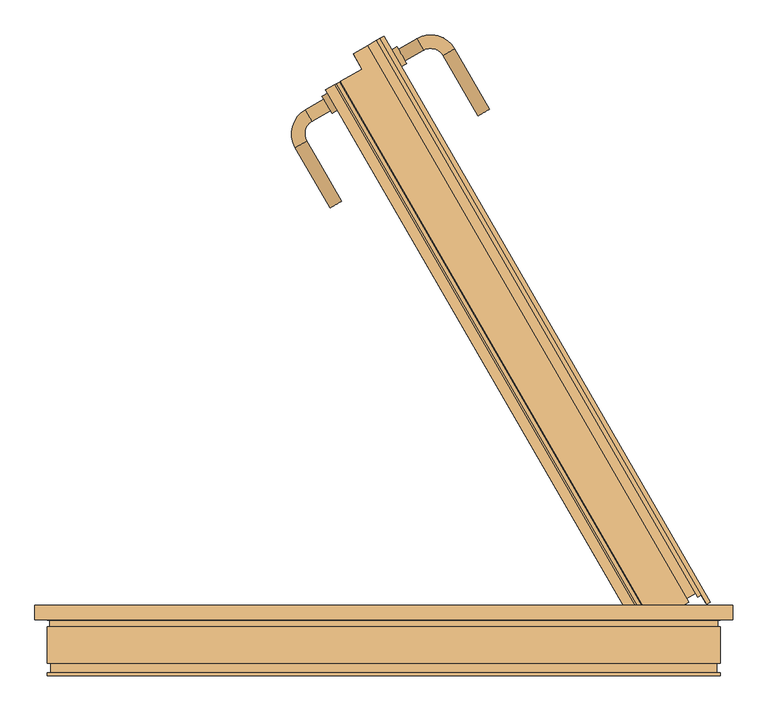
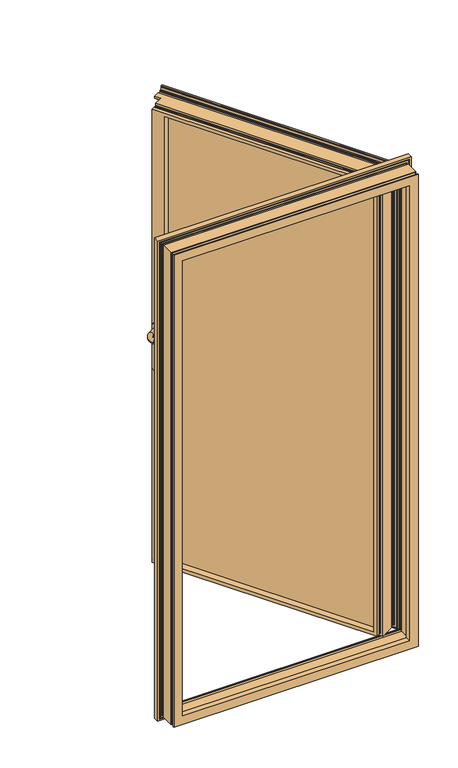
"""IFC4 building model written with IfcOpenShell, lengths in millimetres: door geometry, Comfort+_CUD-1_Metaglas : KozijnMerk."""

from ifc_helpers import new_model, si_unit, point, frame, frame_2d, origin, place, context, project, spatial, polyline, circle_curve, ellipse_curve, trimmed, segment, composite_curve, outline, extrude, faceted_brep, source, transform, mapped, element, save
from ifc_brep_helpers import plane_surface, cylinder_surface, revolved_surface, advanced_brep


def door_c66387b3(model_context):
    return source(origin(), model_context, "Body", "SolidModel", [
        extrude(outline(composite_curve([segment(polyline([(-142.592674, 0.0), (30.413355, 0.0)]), True, "CONTINUOUS"), segment(trimmed(circle_curve(frame_2d((30.413355, -14.0)), 14.0), [point((30.413355, 0.0))], [point((30.413355, -28.0))], False, "CARTESIAN"), True, "CONTINUOUS"), segment(polyline([(30.413355, -28.0), (-142.592674, -28.0)]), True, "CONTINUOUS"), segment(trimmed(circle_curve(frame_2d((-142.592674, -14.0)), 14.0), [point((-142.592674, -28.0))], [point((-142.592674, 0.0))], False, "CARTESIAN"), True, "CONTINUOUS")], self_intersect=False)), frame((-88.2255085, 778.6108966, 1706.9152867), z_axis=(0.866025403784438, 0.5000000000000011, 0.0), x_axis=(0.0, 0.0, -1.0)), (0.0, 0.0, 1.0), 9.0),
        advanced_brep(
        [(-85.9755085, 774.7137823, 1836.0), (-76.4755085, 758.2592996, 1836.0), (-112.3892834, 759.4637823, 1836.0), (-102.8892834, 743.0092996, 1836.0), (-110.3928041, 715.0057789, 1836.0), (-126.8472868, 705.5057789, 1836.0), (-76.8472868, 618.9032385, 1836.0), (-60.3928041, 628.4032385, 1836.0)],
        [
            (0, 1, circle_curve(frame((-81.2255085, 766.486541, 1836.0), z_axis=(0.866025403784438, 0.5000000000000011, 0.0), x_axis=(0.5000000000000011, -0.866025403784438, 0.0)), 9.5)),
            (1, 0, circle_curve(frame((-81.2255085, 766.486541, 1836.0), z_axis=(0.866025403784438, 0.5000000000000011, 0.0), x_axis=(0.5000000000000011, -0.866025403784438, 0.0)), 9.5)),
            (0, 2),
            (2, 3, circle_curve(frame((-107.6392834, 751.236541, 1836.0), z_axis=(0.866025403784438, 0.5000000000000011, 0.0), x_axis=(0.5000000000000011, -0.866025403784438, 0.0)), 9.5)),
            (3, 1),
            (3, 2, circle_curve(frame((-107.6392834, 751.236541, 1836.0), z_axis=(0.866025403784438, 0.5000000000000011, 0.0), x_axis=(0.5000000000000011, -0.866025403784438, 0.0)), 9.5)),
            (4, 3, circle_curve(frame((-92.6392834, 725.2557789, 1836.0), z_axis=(0.0, 0.0, -1.0), x_axis=(-0.5000000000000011, 0.866025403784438, 0.0)), 20.5)),
            (2, 5, circle_curve(frame((-92.6392834, 725.2557789, 1836.0), z_axis=(0.0, 0.0, 1.0), x_axis=(-0.5000000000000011, 0.866025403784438, 0.0)), 39.5)),
            (5, 4, circle_curve(frame((-118.6200455, 710.2557789, 1836.0), z_axis=(-0.4999999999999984, 0.8660254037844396, 0.0), x_axis=(0.8660254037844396, 0.4999999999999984, 0.0)), 9.5)),
            (4, 5, circle_curve(frame((-118.6200455, 710.2557789, 1836.0), z_axis=(-0.49999999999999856, 0.8660254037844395, 0.0), x_axis=(0.8660254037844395, 0.49999999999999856, 0.0)), 9.5)),
            (6, 7, circle_curve(frame((-68.6200455, 623.6532385, 1836.0), z_axis=(0.4999999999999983, -0.8660254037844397, 0.0), x_axis=(0.8660254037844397, 0.4999999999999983, 0.0)), 9.5)),
            (7, 6, circle_curve(frame((-68.6200455, 623.6532385, 1836.0), z_axis=(0.4999999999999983, -0.8660254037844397, 0.0), x_axis=(0.8660254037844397, 0.4999999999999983, 0.0)), 9.5)),
            (5, 6),
            (7, 4),
        ],
        [
            plane_surface(frame((-81.2255085, 766.486541, 1836.0), z_axis=(0.866025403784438, 0.5000000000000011, 0.0), x_axis=(0.0, 0.0, 1.0))),
            cylinder_surface(frame((-81.2255085, 766.486541, 1836.0), z_axis=(0.866025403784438, 0.5000000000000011, 0.0), x_axis=(0.5000000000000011, -0.866025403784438, 0.0)), 9.5),
            revolved_surface(trimmed(ellipse_curve(frame((-107.6392834, 751.236541, 1836.0), z_axis=(0.866025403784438, 0.5000000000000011, 0.0), x_axis=(0.5000000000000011, -0.866025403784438, 0.0)), 9.5, 9.5), [point((-112.3892834, 759.4637823, 1836.0))], [point((-102.8892834, 743.0092996, 1836.0))], True, "CARTESIAN"), (-92.6392834, 725.2557789, 1836.0), (0.0, 0.0, 1.0)),
            revolved_surface(trimmed(ellipse_curve(frame((-107.6392834, 751.236541, 1836.0), z_axis=(0.866025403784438, 0.5000000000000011, 0.0), x_axis=(0.5000000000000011, -0.866025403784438, 0.0)), 9.5, 9.5), [point((-102.8892834, 743.0092996, 1836.0))], [point((-112.3892834, 759.4637823, 1836.0))], True, "CARTESIAN"), (-92.6392834, 725.2557789, 1836.0), (0.0, 0.0, 1.0)),
            plane_surface(frame((-68.6200455, 623.6532385, 1836.0), z_axis=(0.4999999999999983, -0.8660254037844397, 0.0), x_axis=(0.0, 0.0, 1.0))),
            cylinder_surface(frame((-118.6200455, 710.2557789, 1836.0), z_axis=(-0.4999999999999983, 0.8660254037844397, 0.0), x_axis=(0.8660254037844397, 0.4999999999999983, 0.0)), 9.5),
        ],
        [
            (0, [[1, 2]]),
            (1, [[-1, 3, 4, 5]]),
            (1, [[-2, -5, 6, -3]]),
            (2, [[7, -4, 8, 9]]),
            (3, [[-8, -6, -7, 10]]),
            (4, [[11, 12]]),
            (5, [[-9, 13, -12, 14]]),
            (5, [[-10, -14, -11, -13]]),
        ],
    ),
        extrude(outline(composite_curve([segment(polyline([(142.592674, 0.0), (-30.413355, 0.0)]), True, "CONTINUOUS"), segment(trimmed(circle_curve(frame_2d((-30.413355, 14.0)), 14.0), [point((-30.413355, 0.0))], [point((-30.413355, 28.0))], False, "CARTESIAN"), True, "CONTINUOUS"), segment(polyline([(-30.413355, 28.0), (142.592674, 28.0)]), True, "CONTINUOUS"), segment(trimmed(circle_curve(frame_2d((142.592674, 14.0)), 14.0), [point((142.592674, 28.0))], [point((142.592674, 0.0))], False, "CARTESIAN"), True, "CONTINUOUS")], self_intersect=False)), frame((11.0, 845.5472247, 1706.9152867), z_axis=(0.866025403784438, 0.5000000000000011, 0.0), x_axis=(0.0, 0.0, 1.0)), (0.0, 0.0, 1.0), 9.0),
        advanced_brep(
        [(21.0442286, 846.1501104, 1836.0), (30.5442286, 829.6956277, 1836.0), (56.9580034, 844.9456277, 1836.0), (47.4580034, 861.4001104, 1836.0), (84.9615242, 837.4421069, 1836.0), (101.4160069, 846.9421069, 1836.0), (151.4160069, 760.3395665, 1836.0), (134.9615242, 750.8395665, 1836.0)],
        [
            (0, 1, circle_curve(frame((25.7942286, 837.922869, 1836.0), z_axis=(-0.866025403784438, -0.5000000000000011, 0.0), x_axis=(0.5000000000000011, -0.866025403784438, 0.0)), 9.5)),
            (1, 0, circle_curve(frame((25.7942286, 837.922869, 1836.0), z_axis=(-0.866025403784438, -0.5000000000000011, 0.0), x_axis=(0.5000000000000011, -0.866025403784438, 0.0)), 9.5)),
            (1, 2),
            (2, 3, circle_curve(frame((52.2080034, 853.172869, 1836.0), z_axis=(-0.866025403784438, -0.5000000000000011, 0.0), x_axis=(0.5000000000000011, -0.866025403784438, 0.0)), 9.5)),
            (3, 0),
            (3, 2, circle_curve(frame((52.2080034, 853.172869, 1836.0), z_axis=(-0.866025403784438, -0.5000000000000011, 0.0), x_axis=(0.5000000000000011, -0.866025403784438, 0.0)), 9.5)),
            (4, 5, circle_curve(frame((93.1887656, 842.1921069, 1836.0), z_axis=(-0.5000000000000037, 0.8660254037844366, 0.0), x_axis=(-0.8660254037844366, -0.5000000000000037, 0.0)), 9.5)),
            (5, 3, circle_curve(frame((67.2080034, 827.1921069, 1836.0), z_axis=(0.0, 0.0, 1.0), x_axis=(-0.5000000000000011, 0.866025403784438, 0.0)), 39.5)),
            (2, 4, circle_curve(frame((67.2080034, 827.1921069, 1836.0), z_axis=(0.0, 0.0, -1.0), x_axis=(-0.5000000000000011, 0.866025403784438, 0.0)), 20.5)),
            (5, 4, circle_curve(frame((93.1887656, 842.1921069, 1836.0), z_axis=(-0.5000000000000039, 0.8660254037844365, 0.0), x_axis=(-0.8660254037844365, -0.5000000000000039, 0.0)), 9.5)),
            (6, 7, circle_curve(frame((143.1887656, 755.5895665, 1836.0), z_axis=(0.5000000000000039, -0.8660254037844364, 0.0), x_axis=(-0.8660254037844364, -0.5000000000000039, 0.0)), 9.5)),
            (7, 6, circle_curve(frame((143.1887656, 755.5895665, 1836.0), z_axis=(0.5000000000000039, -0.8660254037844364, 0.0), x_axis=(-0.8660254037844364, -0.5000000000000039, 0.0)), 9.5)),
            (4, 7),
            (6, 5),
        ],
        [
            plane_surface(frame((25.7942286, 837.922869, 1836.0), z_axis=(-0.866025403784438, -0.5000000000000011, 0.0), x_axis=(0.0, 0.0, 1.0))),
            cylinder_surface(frame((25.7942286, 837.922869, 1836.0), z_axis=(-0.866025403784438, -0.5000000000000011, 0.0), x_axis=(0.5000000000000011, -0.866025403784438, 0.0)), 9.5),
            revolved_surface(trimmed(ellipse_curve(frame((52.2080034, 853.172869, 1836.0), z_axis=(0.866025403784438, 0.5000000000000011, 0.0), x_axis=(0.5000000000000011, -0.866025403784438, 0.0)), 9.5, 9.5), [point((47.4580034, 861.4001104, 1836.0))], [point((56.9580034, 844.9456277, 1836.0))], True, "CARTESIAN"), (67.2080034, 827.1921069, 1836.0), (0.0, 0.0, 1.0)),
            revolved_surface(trimmed(ellipse_curve(frame((52.2080034, 853.172869, 1836.0), z_axis=(0.866025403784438, 0.5000000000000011, 0.0), x_axis=(0.5000000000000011, -0.866025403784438, 0.0)), 9.5, 9.5), [point((56.9580034, 844.9456277, 1836.0))], [point((47.4580034, 861.4001104, 1836.0))], True, "CARTESIAN"), (67.2080034, 827.1921069, 1836.0), (0.0, 0.0, 1.0)),
            plane_surface(frame((143.1887656, 755.5895665, 1836.0), z_axis=(0.5000000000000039, -0.8660254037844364, 0.0), x_axis=(0.0, 0.0, 1.0))),
            cylinder_surface(frame((93.1887656, 842.1921069, 1836.0), z_axis=(-0.5000000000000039, 0.8660254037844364, 0.0), x_axis=(-0.8660254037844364, -0.5000000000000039, 0.0)), 9.5),
        ],
        [
            (0, [[1, 2]]),
            (1, [[3, 4, 5, -2]]),
            (1, [[-5, 6, -3, -1]]),
            (2, [[7, 8, -4, 9]]),
            (3, [[10, -9, -6, -8]]),
            (4, [[11, 12]]),
            (5, [[13, -11, 14, -7]]),
            (5, [[-14, -12, -13, -10]]),
        ],
    ),
        extrude(outline(polyline([(1.8051363, 793.4731958), (423.8051363, 62.547755), (418.6089838, 59.547755), (-3.3910162, 790.4731958), (1.8051363, 793.4731958)])), frame((0.0, 0.0, 858.0), z_axis=(0.0, 0.0, 1.0), x_axis=(1.0, 0.0, 0.0)), (0.0, 0.0, 1.0), 1884.0),
        extrude(outline(polyline([(-16.3813972, 782.9731958), (405.6186028, 52.047755), (401.7214885, 49.797755), (-20.2785115, 780.7231958), (-16.3813972, 782.9731958)])), frame((0.0, 0.0, 858.0), z_axis=(0.0, 0.0, 1.0), x_axis=(1.0, 0.0, 0.0)), (0.0, 0.0, 1.0), 1884.0),
        extrude(outline(polyline([(-33.2688926, 773.2231958), (388.7311074, 42.297755), (383.534955, 39.297755), (-38.465045, 770.2231958), (-33.2688926, 773.2231958)])), frame((0.0, 0.0, 858.0), z_axis=(0.0, 0.0, 1.0), x_axis=(1.0, 0.0, 0.0)), (0.0, 0.0, 1.0), 1884.0),
        extrude(outline(polyline([(844.0, -1884.0), (0.0, -1884.0), (0.0, 0.0), (844.0, 0.0), (844.0, -1884.0)]), holes=[polyline([(832.0, -12.0), (12.0, -12.0), (12.0, -1872.0), (832.0, -1872.0), (832.0, -12.0)])]), frame((405.6186028, 52.047755, 2742.0), z_axis=(0.8660254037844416, 0.49999999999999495, 0.0), x_axis=(-0.49999999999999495, 0.8660254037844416, 0.0)), (0.0, 0.0, 1.0), 15.0),
        extrude(outline(polyline([(844.0, -1884.0), (0.0, -1884.0), (0.0, 0.0), (844.0, 0.0), (844.0, -1884.0)]), holes=[polyline([(832.0, -12.0), (12.0, -12.0), (12.0, -1872.0), (832.0, -1872.0), (832.0, -12.0)])]), frame((388.7311074, 42.297755, 2742.0), z_axis=(0.8660254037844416, 0.49999999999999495, 0.0), x_axis=(-0.49999999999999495, 0.8660254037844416, 0.0)), (0.0, 0.0, 1.0), 15.0),
        faceted_brep([(-27.7128081, 848.5997864, 2727.9999691), (-27.7128081, 848.5997864, 2744.0999691), (-43.6476588, 839.399796, 2744.0999691), (-43.6476588, 839.399796, 2752.5013297), (-23.3393798, 851.1247864, 2752.5013297), (-23.3393798, 851.1247864, 2751.0), (-25.5044433, 849.8747864, 2751.0), (-25.5044433, 849.8747864, 2747.993792), (-23.3393798, 851.1247864, 2747.993792), (-23.3393798, 851.1247864, 2746.50005), (-10.3498012, 858.6243231, 2746.50005), (-10.3498012, 858.6243231, 2748.00002), (-8.1841894, 859.8746396, 2748.00002), (-8.1841894, 859.8746396, 2751.0), (-10.3498012, 858.6243231, 2751.0), (-10.3498012, 858.6243231, 2752.5013297), (-5.1961476, 861.5997864, 2752.5013297), (-5.1961476, 861.5997864, 2762.0431852), (-2.2917701, 863.2766295, 2762.0431852), (-2.2917701, 863.2766295, 2765.9068148), (-5.1961476, 861.5997864, 2765.9068148), (-5.1961476, 861.5997864, 2768.0), (0.0, 864.5997836, 2768.0), (0.0, 864.5997836, 832.0), (-5.1961476, 861.5997864, 832.0), (-5.1961476, 861.5997864, 834.0931852), (-2.2917701, 863.2766295, 834.0931852), (-2.2917701, 863.2766295, 837.9568148), (-5.1961476, 861.5997864, 837.9568148), (-5.1961476, 861.5997864, 847.4986703), (-10.3498012, 858.6243231, 847.4986703), (-10.3498012, 858.6243231, 849.0), (-8.1841894, 859.8746396, 849.0), (-8.1841894, 859.8746396, 851.99998), (-10.3498012, 858.6243231, 851.99998), (-10.3498012, 858.6243231, 853.49995), (-23.3393798, 851.1247864, 853.49995), (-23.3393798, 851.1247864, 852.006208), (-25.5044433, 849.8747864, 852.006208), (-25.5044433, 849.8747864, 849.0), (-23.3393798, 851.1247864, 849.0), (-23.3393798, 851.1247864, 847.4986703), (-43.6476588, 839.399796, 847.4986703), (-43.6476588, 839.399796, 855.9000309), (-27.7128081, 848.5997864, 855.9000309), (-27.7128081, 848.5997864, 872.0000309), (-5.1961476, 861.5997864, 872.0000309), (-5.1961476, 861.5997864, 2727.9999691), (468.0, 54.0000056, 2768.0), (468.0, 54.0000056, 832.0), (447.9999845, 88.6410485, 872.0000309), (447.9999845, 88.6410485, 2727.9999691), (36.5, 801.3799291, 2727.9999691), (36.5, 801.3799291, 872.0000309), (462.8038524, 51.0000084, 832.0), (461.7572599, 52.81276, 2765.9068148), (461.7572599, 52.81276, 834.0931852), (462.8038524, 51.0000084, 2768.0), (464.6616374, 54.4896031, 834.0931852), (462.7298225, 57.8356045, 2762.0431852), (462.7298225, 57.8356045, 837.9568148), (464.6616374, 54.4896031, 2765.9068148), (459.825445, 56.1587614, 837.9568148), (455.0545173, 64.4222506, 2752.5013297), (455.0545173, 64.4222506, 847.4986703), (459.825445, 56.1587614, 2762.0431852), (449.9008637, 61.4467873, 847.4986703), (449.1501988, 62.746977, 2751.0), (449.1501988, 62.746977, 849.0), (449.9008637, 61.4467873, 2752.5013297), (451.3158106, 63.9972935, 849.0), (449.8158206, 66.5953524, 2748.00002), (449.8158206, 66.5953524, 851.99998), (451.3158106, 63.9972935, 2751.0), (447.6502088, 65.3450359, 851.99998), (446.9002238, 66.644048, 2746.50005), (446.9002238, 66.644048, 853.49995), (447.6502088, 65.3450359, 2748.00002), (433.9106452, 59.1445113, 853.49995), (434.6575163, 57.8508928, 2747.993792), (434.6575163, 57.8508928, 852.006208), (433.9106452, 59.1445113, 2746.50005), (432.4924527, 56.6008928, 852.006208), (433.9955567, 53.9974403, 2751.0), (433.9955567, 53.9974403, 849.0), (432.4924527, 56.6008928, 2747.993792), (436.1606202, 55.2474403, 849.0), (436.9112851, 53.9472506, 2752.5013297), (436.9112851, 53.9472506, 847.4986703), (436.1606202, 55.2474403, 2751.0), (385.8591042, 24.4722603, 847.4986703), (-61.8915606, 799.9991609, 847.4986703), (-31.1476588, 817.7491609, 847.4986703), (381.8347955, 31.4425674, 2744.4527122), (381.8347955, 31.4425674, 855.5472878), (-61.8915606, 799.9991609, 855.5472878), (385.8591042, 24.4722603, 2752.5013297), (-61.8915606, 799.9991609, 2752.5013297), (-61.8915606, 799.9991609, 2744.4527122), (379.0306335, 32.1939404, 857.6000768), (-63.6693281, 798.9727664, 857.6000768), (374.7245725, 29.7078349, 857.6000768), (-67.9753891, 796.4866609, 857.6000768), (373.5495725, 31.7429946, 2740.0499232), (373.5495725, 31.7429946, 859.9500768), (-67.9753891, 796.4866609, 859.9500768), (374.7245725, 29.7078349, 2742.3999232), (-67.9753891, 796.4866609, 2742.3999232), (-67.9753891, 796.4866609, 2740.0499232), (370.9947976, 30.2679946, 859.9500768), (-70.530164, 795.0116609, 859.9500768), (372.1697976, 28.2328349, 2742.3999232), (372.1697976, 28.2328349, 857.6000768), (-70.530164, 795.0116609, 857.6000768), (370.9947976, 30.2679946, 2740.0499232), (-70.530164, 795.0116609, 2740.0499232), (-70.530164, 795.0116609, 2742.3999232), (359.5907786, 20.9703349, 857.6000768), (-83.109183, 787.7491609, 857.6000768), (359.5907786, 20.9703349, 2742.3999232), (-83.109183, 787.7491609, 2742.3999232), (-83.109183, 787.7491609, 2727.9999691), (-82.883374, 787.3580482, 2727.9999691), (-82.883374, 787.3580482, 872.0000309), (-83.109183, 787.7491609, 872.0000309), (352.3908015, 33.441061, 2727.9999691), (352.3908015, 33.441061, 872.0000309), (-59.109183, 746.1799415, 872.0000309), (-59.109183, 746.1799415, 2727.9999691), (-67.7495801, 796.0955482, 872.0000309), (-63.4434769, 798.581678, 872.0000309), (-63.2781732, 799.1985998, 872.0000309), (-70.304355, 794.6205482, 872.0000309), (-69.129355, 792.5853885, 872.0000309), (-66.5745801, 794.0603885, 872.0000309), (-37.8350806, 761.3321153, 872.0000309), (-39.7703029, 764.6840186, 872.0000309), (-42.5505249, 763.0788566, 872.0000309), (-40.6153027, 759.7269534, 872.0000309), (374.907462, 46.441061, 872.0000309), (-36.5925225, 759.1799415, 872.0000309), (376.1023509, 44.3714527, 2730.3897468), (376.1023509, 44.3714527, 869.6102532), (-60.5925225, 800.7491609, 869.6102532), (-60.5925225, 800.7491609, 872.0000309), (-44.9917311, 773.7277975, 872.0000309), (-44.9917311, 773.7277975, 2727.9999691), (-60.5925225, 800.7491609, 2727.9999691), (-60.5925225, 800.7491609, 2730.3897468), (374.907462, 46.441061, 2727.9999691), (-36.5925225, 759.1799415, 2727.9999691), (-37.8350806, 761.3321153, 2727.9999691), (-39.7703029, 764.6840186, 2727.9999691), (373.3221288, 42.7662908, 869.6102532), (-63.3727446, 799.143999, 869.6102532), (375.2573511, 39.4143875, 2734.2601913), (375.2573511, 39.4143875, 865.7398087), (-63.3727446, 799.143999, 865.7398087), (373.3221288, 42.7662908, 2730.3897468), (-63.3727446, 799.143999, 2730.3897468), (-63.3727446, 799.143999, 2734.2601913), (378.0375731, 41.0195495, 865.7398087), (-60.5925225, 800.7491609, 865.7398087), (381.5942053, 34.8592819, 2741.3734556), (381.5942053, 34.8592819, 858.6265444), (-60.5925225, 800.7491609, 858.6265444), (378.0375731, 41.0195495, 2734.2601913), (-60.5925225, 800.7491609, 2734.2601913), (-60.5925225, 800.7491609, 2741.3734556), (383.8283795, 33.0008764, 855.9000309), (-59.7216051, 801.2519853, 855.9000309), (428.3371765, 58.6980424, 855.9000309), (-31.1476588, 817.7491609, 855.9000309), (-20.0376779, 835.306071, 2727.9999691), (0.3879834, 799.9277878, 2727.9999691), (0.3879834, 799.9277878, 872.0000309), (-20.0376779, 835.306071, 872.0000309), (428.3371765, 58.6980424, 2744.0999691), (420.2871765, 72.6410514, 2727.9999691), (420.2871765, 72.6410514, 872.0000309), (8.7871919, 785.3799319, 872.0000309), (8.7871919, 785.3799319, 2727.9999691), (-15.6642496, 837.831071, 872.0000309), (-14.9135848, 836.5308814, 872.0000309), (-17.0786483, 835.2808814, 872.0000309), (-15.5755443, 832.6774289, 872.0000309), (-13.4104808, 833.9274289, 872.0000309), (-12.6636098, 832.6338104, 872.0000309), (0.3259688, 840.1333471, 872.0000309), (-0.4240162, 841.4323592, 872.0000309), (1.7415955, 842.6826757, 872.0000309), (0.2416055, 845.2807346, 872.0000309), (-1.9240062, 844.0304181, 872.0000309), (-2.674671, 845.3306077, 872.0000309), (2.4789826, 848.306071, 872.0000309), (-2.2919452, 856.5695603, 872.0000309), (0.6124323, 858.2464034, 872.0000309), (-1.3193825, 861.5924049, 872.0000309), (-4.22376, 859.9155617, 872.0000309), (-4.22376, 859.9155617, 2727.9999691), (-31.1476588, 817.7491609, 872.0000309), (-35.9725287, 826.1060807, 872.0000309), (383.8283795, 33.0008764, 2744.0999691), (-42.5505249, 763.0788566, 2727.9999691), (-40.6153027, 759.7269534, 2727.9999691), (-70.304355, 794.6205482, 2727.9999691), (379.0306335, 32.1939404, 2742.3999232), (-15.6642496, 837.831071, 2727.9999691), (-35.9725287, 826.1060807, 2727.9999691), (-14.9135848, 836.5308814, 2727.9999691), (-17.0786483, 835.2808814, 2727.9999691), (-15.5755443, 832.6774289, 2727.9999691), (-13.4104808, 833.9274289, 2727.9999691), (-12.6636098, 832.6338104, 2727.9999691), (0.3259688, 840.1333471, 2727.9999691), (-0.4240162, 841.4323592, 2727.9999691), (1.7415955, 842.6826757, 2727.9999691), (0.2416055, 845.2807346, 2727.9999691), (-1.9240062, 844.0304181, 2727.9999691), (-2.674671, 845.3306077, 2727.9999691), (2.4789826, 848.306071, 2727.9999691), (-2.2919452, 856.5695603, 2727.9999691), (0.6124323, 858.2464034, 2727.9999691), (-1.3193825, 861.5924049, 2727.9999691), (-69.129355, 792.5853885, 2727.9999691), (-66.5745801, 794.0603885, 2727.9999691), (-67.7495801, 796.0955482, 2727.9999691), (-63.4434769, 798.581678, 2727.9999691), (-63.2781732, 799.1985998, 2727.9999691), (-59.7216051, 801.2519853, 2744.0999691), (-31.1476588, 817.7491609, 2744.0999691), (-63.6693281, 798.9727664, 2742.3999232), (-31.1476588, 817.7491609, 2752.5013297), (-31.1476588, 817.7491609, 2727.9999691)], [[[0, 1, 2, 3, 4, 5, 6, 7, 8, 9, 10, 11, 12, 13, 14, 15, 16, 17, 18, 19, 20, 21, 22, 23, 24, 25, 26, 27, 28, 29, 30, 31, 32, 33, 34, 35, 36, 37, 38, 39, 40, 41, 42, 43, 44, 45, 46, 47]], [[22, 48, 49, 23], [50, 51, 52, 53]], [[54, 24, 23, 49]], [[21, 20, 55, 56, 25, 24, 54, 57]], [[58, 26, 25, 56]], [[19, 18, 59, 60, 27, 26, 58, 61]], [[62, 28, 27, 60]], [[17, 16, 63, 64, 29, 28, 62, 65]], [[66, 30, 29, 64]], [[15, 14, 67, 68, 31, 30, 66, 69]], [[70, 32, 31, 68]], [[13, 12, 71, 72, 33, 32, 70, 73]], [[74, 34, 33, 72]], [[11, 10, 75, 76, 35, 34, 74, 77]], [[78, 36, 35, 76]], [[9, 8, 79, 80, 37, 36, 78, 81]], [[82, 38, 37, 80]], [[7, 6, 83, 84, 39, 38, 82, 85]], [[86, 40, 39, 84]], [[5, 4, 87, 88, 41, 40, 86, 89]], [[41, 88, 90, 91, 92, 42]], [[93, 94, 95, 91, 90, 96, 97, 98]], [[94, 99, 100, 95]], [[99, 101, 102, 100]], [[103, 104, 105, 102, 101, 106, 107, 108]], [[104, 109, 110, 105]], [[111, 112, 113, 110, 109, 114, 115, 116]], [[112, 117, 118, 113]], [[117, 119, 120, 121, 122, 123, 124, 118], [125, 126, 127, 128]], [[129, 130, 131, 124, 123, 132, 133, 134]], [[135, 136, 137, 138]], [[126, 139, 140, 127]], [[141, 142, 143, 144, 145, 146, 147, 148], [139, 149, 150, 140], [135, 151, 152, 136]], [[142, 153, 154, 143]], [[155, 156, 157, 154, 153, 158, 159, 160]], [[156, 161, 162, 157]], [[163, 164, 165, 162, 161, 166, 167, 168]], [[164, 169, 170, 165]], [[171, 44, 43, 172, 170, 169]], [[1, 0, 173, 174, 175, 176, 45, 44, 171, 177], [178, 179, 180, 181]], [[45, 176, 182, 183, 184, 185, 186, 187, 188, 189, 190, 191, 192, 193, 194, 195, 196, 197, 198, 46]], [[179, 50, 53, 180]], [[47, 46, 198, 199]], [[174, 146, 145, 175]], [[175, 145, 144, 200, 201, 176]], [[177, 171, 169, 202]], [[53, 52, 181, 180]], [[178, 51, 50, 179]], [[163, 202, 169, 164]], [[166, 161, 156, 155]], [[158, 153, 142, 141]], [[128, 127, 140, 150]], [[149, 139, 126, 125]], [[203, 137, 136, 152]], [[151, 135, 138, 204]], [[205, 132, 123, 122]], [[119, 117, 112, 111]], [[114, 109, 104, 103]], [[106, 101, 99, 206]], [[93, 206, 99, 94]], [[96, 90, 88, 87]], [[89, 86, 84, 83]], [[85, 82, 80, 79]], [[81, 78, 76, 75]], [[77, 74, 72, 71]], [[73, 70, 68, 67]], [[69, 66, 64, 63]], [[65, 62, 60, 59]], [[61, 58, 56, 55]], [[57, 54, 49, 48]], [[207, 182, 176, 201, 208, 173]], [[209, 183, 182, 207]], [[210, 184, 183, 209]], [[211, 185, 184, 210]], [[212, 186, 185, 211]], [[213, 187, 186, 212]], [[214, 188, 187, 213]], [[215, 189, 188, 214]], [[216, 190, 189, 215]], [[217, 191, 190, 216]], [[218, 192, 191, 217]], [[219, 193, 192, 218]], [[220, 194, 193, 219]], [[221, 195, 194, 220]], [[222, 196, 195, 221]], [[223, 197, 196, 222]], [[199, 198, 197, 223]], [[224, 133, 132, 205]], [[225, 134, 133, 224]], [[226, 129, 134, 225]], [[227, 130, 129, 226]], [[130, 227, 228, 131]], [[204, 138, 137, 203]], [[0, 47, 199, 223, 222, 221, 220, 219, 218, 217, 216, 215, 214, 213, 212, 211, 210, 209, 207, 173]], [[51, 178, 181, 52]], [[1, 177, 202, 229, 230, 2]], [[202, 163, 168, 229]], [[166, 155, 160, 167]], [[158, 141, 148, 159]], [[152, 151, 204, 203]], [[227, 226, 225, 224, 205, 122, 121, 228]], [[149, 125, 128, 150]], [[119, 111, 116, 120]], [[114, 103, 108, 115]], [[106, 206, 231, 107]], [[206, 93, 98, 231]], [[96, 87, 4, 3, 232, 97]], [[6, 5, 89, 83]], [[8, 7, 85, 79]], [[10, 9, 81, 75]], [[12, 11, 77, 71]], [[14, 13, 73, 67]], [[16, 15, 69, 63]], [[18, 17, 65, 59]], [[20, 19, 61, 55]], [[22, 21, 57, 48]], [[146, 174, 173, 208, 233, 147]], [[92, 172, 43, 42]], [[200, 233, 208, 201]], [[230, 232, 3, 2]], [[232, 230, 229, 168, 167, 160, 159, 148, 147, 233, 200, 144, 143, 154, 157, 162, 165, 170, 172, 92, 91, 95, 100, 102, 105, 110, 113, 118, 124, 131, 228, 121, 120, 116, 115, 108, 107, 231, 98, 97]]]),
        faceted_brep([(-492.8725928, 32.3765351, 2792.8725928), (-492.8725928, 29.0, 2792.8725928), (-492.8725928, 29.0, 807.1274072), (-492.8725928, 32.3765351, 807.1274072), (-500.0, 29.0, 800.0), (500.0, 29.0, 800.0), (500.0, 29.0, 2800.0), (-500.0, 29.0, 2800.0), (492.8725928, 29.0, 2792.8725928), (492.8725928, 29.0, 807.1274072), (492.8725928, 32.3765351, 807.1274072), (492.8725928, 32.3765351, 2792.8725928), (-489.0089631, 32.3765351, 2789.0089631), (489.0089631, 32.3765351, 2789.0089631), (489.0089631, 32.3765351, 810.9910369), (-489.0089631, 32.3765351, 810.9910369), (-489.0089631, 29.0, 2789.0089631), (-489.0089631, 29.0, 810.9910369), (489.0089631, 29.0, 810.9910369), (489.0089631, 29.0, 2789.0089631), (-481.9850614, 29.0, 2781.9850614), (481.9850614, 29.0, 2781.9850614), (481.9850614, 29.0, 818.0149386), (-481.9850614, 29.0, 818.0149386), (-481.9850614, 27.9608904, 2781.9850614), (-481.9850614, 27.9608904, 818.0149386), (481.9850614, 27.9608904, 818.0149386), (481.9850614, 27.9608904, 2781.9850614), (-478.7447337, 27.9608904, 2778.7447337), (478.7447337, 27.9608904, 2778.7447337), (478.7447337, 27.9608904, 821.2552663), (-478.7447337, 27.9608904, 821.2552663), (-478.7447337, 19.1940428, 2778.7447337), (-478.7447337, 19.1940428, 821.2552663), (478.7447337, 19.1940428, 821.2552663), (-481.9850614, 19.1940428, 2781.9850614), (481.9850614, 19.1940428, 2781.9850614), (481.9850614, 19.1940428, 818.0149386), (-481.9850614, 19.1940428, 818.0149386), (478.7447337, 19.1940428, 2778.7447337), (-481.9850614, -33.0, 2781.9850614), (-481.9850614, -33.0, 818.0149386), (481.9850614, -33.0, 818.0149386), (481.9850614, -33.0, 2781.9850614), (-480.4999232, -33.0, 2780.4999232), (480.4999232, -33.0, 2780.4999232), (480.4999232, -33.0, 819.5000768), (-480.4999232, -33.0, 819.5000768), (-480.4999232, -31.0, 2780.4999232), (-480.4999232, -31.0, 819.5000768), (480.4999232, -31.0, 819.5000768), (480.4999232, -31.0, 2780.4999232), (-477.4912716, -31.0, 2777.4912716), (477.4912716, -31.0, 2777.4912716), (477.4912716, -31.0, 822.5087284), (-477.4912716, -31.0, 822.5087284), (-477.4912716, -49.0, 2777.4912716), (-477.4912716, -49.0, 822.5087284), (477.4912716, -49.0, 822.5087284), (-480.4999232, -49.0, 2780.4999232), (480.4999232, -49.0, 2780.4999232), (480.4999232, -49.0, 819.5000768), (-480.4999232, -49.0, 819.5000768), (477.4912716, -49.0, 2777.4912716), (-480.4999232, -47.0, 2780.4999232), (-480.4999232, -47.0, 819.5000768), (480.4999232, -47.0, 819.5000768), (-481.9850614, -47.0, 2781.9850614), (481.9850614, -47.0, 2781.9850614), (481.9850614, -47.0, 818.0149386), (-481.9850614, -47.0, 818.0149386), (480.4999232, -47.0, 2780.4999232), (-481.9850614, -51.0307326, 2781.9850614), (-481.9850614, -51.0307326, 818.0149386), (481.9850614, -51.0307326, 818.0149386), (481.9850614, -51.0307326, 2781.9850614), (-446.9850614, -51.0307326, 2746.9850614), (446.9850614, -51.0307326, 2746.9850614), (446.9850614, -51.0307326, 853.0149386), (-446.9850614, -51.0307326, 853.0149386), (-446.9850614, -30.0, 2746.9850614), (-446.9850614, -30.0, 853.0149386), (446.9850614, -30.0, 853.0149386), (-454.1273304, -30.0, 2754.1273304), (454.1273304, -30.0, 2754.1273304), (454.1273304, -30.0, 845.8726696), (-454.1273304, -30.0, 845.8726696), (446.9850614, -30.0, 2746.9850614), (-454.1273304, -33.1902947, 2754.1273304), (-454.1273304, -33.1902947, 845.8726696), (454.1273304, -33.1902947, 845.8726696), (-457.9909601, -33.1902947, 2757.9909601), (457.9909601, -33.1902947, 2757.9909601), (457.9909601, -33.1902947, 842.0090399), (-457.9909601, -33.1902947, 842.0090399), (454.1273304, -33.1902947, 2754.1273304), (-457.9909601, -30.0, 2757.9909601), (-457.9909601, -30.0, 842.0090399), (457.9909601, -30.0, 842.0090399), (-465.0, -30.0, 2765.0), (465.0, -30.0, 2765.0), (465.0, -30.0, 835.0), (-465.0, -30.0, 835.0), (457.9909601, -30.0, 2757.9909601), (-465.0, -28.9608904, 2765.0), (-465.0, -28.9608904, 835.0), (465.0, -28.9608904, 835.0), (-468.2224333, -28.9608904, 2768.2224333), (468.2224333, -28.9608904, 2768.2224333), (468.2224333, -28.9608904, 831.7775667), (-468.2224333, -28.9608904, 831.7775667), (465.0, -28.9608904, 2765.0), (-468.2224333, -20.1940428, 2768.2224333), (-468.2224333, -20.1940428, 831.7775667), (468.2224333, -20.1940428, 831.7775667), (468.2224333, -20.1940428, 2768.2224333), (-465.0, -20.1940428, 2765.0), (465.0, -20.1940428, 2765.0), (465.0, -20.1940428, 835.0), (-465.0, -20.1940428, 835.0), (-465.0, 32.0, 2765.0), (-465.0, 32.0, 835.0), (465.0, 32.0, 835.0), (-466.502736, 32.0, 2766.502736), (466.502736, 32.0, 2766.502736), (466.502736, 32.0, 833.497264), (-466.502736, 32.0, 833.497264), (465.0, 32.0, 2765.0), (-466.502736, 30.0, 2766.502736), (-466.502736, 30.0, 833.497264), (466.502736, 30.0, 833.497264), (-469.5, 30.0, 2769.5), (469.5, 30.0, 2769.5), (469.5, 30.0, 830.5), (-469.5, 30.0, 830.5), (466.502736, 30.0, 2766.502736), (-469.5, 48.0, 2769.5), (-469.5, 48.0, 830.5), (469.5, 48.0, 830.5), (469.5, 48.0, 2769.5), (-466.5, 48.0, 2766.5), (466.5, 48.0, 2766.5), (466.5, 48.0, 833.5), (-466.5, 48.0, 833.5), (-466.5, 46.0, 2766.5), (-466.5, 46.0, 833.5), (466.5, 46.0, 833.5), (466.5, 46.0, 2766.5), (-465.0, 46.0, 2765.0), (465.0, 46.0, 2765.0), (465.0, 46.0, 835.0), (-465.0, 46.0, 835.0), (-465.0, 50.0, 2765.0), (-465.0, 50.0, 835.0), (465.0, 50.0, 835.0), (-500.0, 50.0, 2800.0), (500.0, 50.0, 2800.0), (500.0, 50.0, 800.0), (-500.0, 50.0, 800.0), (465.0, 50.0, 2765.0)], [[[0, 1, 2, 3]], [[4, 5, 6, 7], [1, 8, 9, 2]], [[3, 2, 9, 10]], [[3, 10, 11, 0], [12, 13, 14, 15]], [[16, 12, 15, 17]], [[17, 15, 14, 18]], [[17, 18, 19, 16], [20, 21, 22, 23]], [[24, 20, 23, 25]], [[25, 23, 22, 26]], [[25, 26, 27, 24], [28, 29, 30, 31]], [[32, 28, 31, 33]], [[33, 31, 30, 34]], [[35, 36, 37, 38], [33, 34, 39, 32]], [[40, 35, 38, 41]], [[41, 38, 37, 42]], [[41, 42, 43, 40], [44, 45, 46, 47]], [[48, 44, 47, 49]], [[49, 47, 46, 50]], [[49, 50, 51, 48], [52, 53, 54, 55]], [[56, 52, 55, 57]], [[57, 55, 54, 58]], [[59, 60, 61, 62], [57, 58, 63, 56]], [[64, 59, 62, 65]], [[65, 62, 61, 66]], [[67, 68, 69, 70], [65, 66, 71, 64]], [[72, 67, 70, 73]], [[73, 70, 69, 74]], [[73, 74, 75, 72], [76, 77, 78, 79]], [[80, 76, 79, 81]], [[81, 79, 78, 82]], [[83, 84, 85, 86], [81, 82, 87, 80]], [[88, 83, 86, 89]], [[89, 86, 85, 90]], [[91, 92, 93, 94], [89, 90, 95, 88]], [[96, 91, 94, 97]], [[97, 94, 93, 98]], [[99, 100, 101, 102], [97, 98, 103, 96]], [[104, 99, 102, 105]], [[105, 102, 101, 106]], [[107, 108, 109, 110], [105, 106, 111, 104]], [[112, 107, 110, 113]], [[113, 110, 109, 114]], [[113, 114, 115, 112], [116, 117, 118, 119]], [[120, 116, 119, 121]], [[121, 119, 118, 122]], [[123, 124, 125, 126], [121, 122, 127, 120]], [[128, 123, 126, 129]], [[129, 126, 125, 130]], [[131, 132, 133, 134], [129, 130, 135, 128]], [[136, 131, 134, 137]], [[137, 134, 133, 138]], [[137, 138, 139, 136], [140, 141, 142, 143]], [[144, 140, 143, 145]], [[145, 143, 142, 146]], [[145, 146, 147, 144], [148, 149, 150, 151]], [[152, 148, 151, 153]], [[153, 151, 150, 154]], [[155, 156, 157, 158], [153, 154, 159, 152]], [[7, 155, 158, 4]], [[4, 158, 157, 5]], [[10, 9, 8, 11]], [[18, 14, 13, 19]], [[26, 22, 21, 27]], [[34, 30, 29, 39]], [[42, 37, 36, 43]], [[50, 46, 45, 51]], [[58, 54, 53, 63]], [[66, 61, 60, 71]], [[74, 69, 68, 75]], [[82, 78, 77, 87]], [[90, 85, 84, 95]], [[98, 93, 92, 103]], [[106, 101, 100, 111]], [[114, 109, 108, 115]], [[122, 118, 117, 127]], [[130, 125, 124, 135]], [[138, 133, 132, 139]], [[146, 142, 141, 147]], [[154, 150, 149, 159]], [[5, 157, 156, 6]], [[11, 8, 1, 0]], [[19, 13, 12, 16]], [[27, 21, 20, 24]], [[39, 29, 28, 32]], [[43, 36, 35, 40]], [[51, 45, 44, 48]], [[63, 53, 52, 56]], [[71, 60, 59, 64]], [[75, 68, 67, 72]], [[87, 77, 76, 80]], [[95, 84, 83, 88]], [[103, 92, 91, 96]], [[111, 100, 99, 104]], [[115, 108, 107, 112]], [[127, 117, 116, 120]], [[135, 124, 123, 128]], [[139, 132, 131, 136]], [[147, 141, 140, 144]], [[159, 149, 148, 152]], [[6, 156, 155, 7]]]),
    ])


if __name__ == "__main__":
    model = new_model("IFC4")
    model_context = context("Model", 3, world=origin())
    ifc_project = project(units=[si_unit("LENGTHUNIT", "METRE", prefix="MILLI")], contexts=[model_context])
    site = spatial("IfcSite", under=ifc_project)
    building = spatial("IfcBuilding", under=site)
    placement = place(None, origin())
    door_shape = door_c66387b3(model_context)
    element("IfcDoor", 1, ObjectType="Comfort+_CUD-1_Metaglas : KozijnMerk", at=placement, inside=building, context=model_context, shape_type="MappedRepresentation", body=[
        mapped(door_shape, transform((0.0, 0.0, 0.0), x_axis=(1.0, 0.0, 0.0), y_axis=(0.0, 1.0, 0.0), z_axis=(0.0, 0.0, 1.0))),
    ])
    save(model, "model.ifc")
